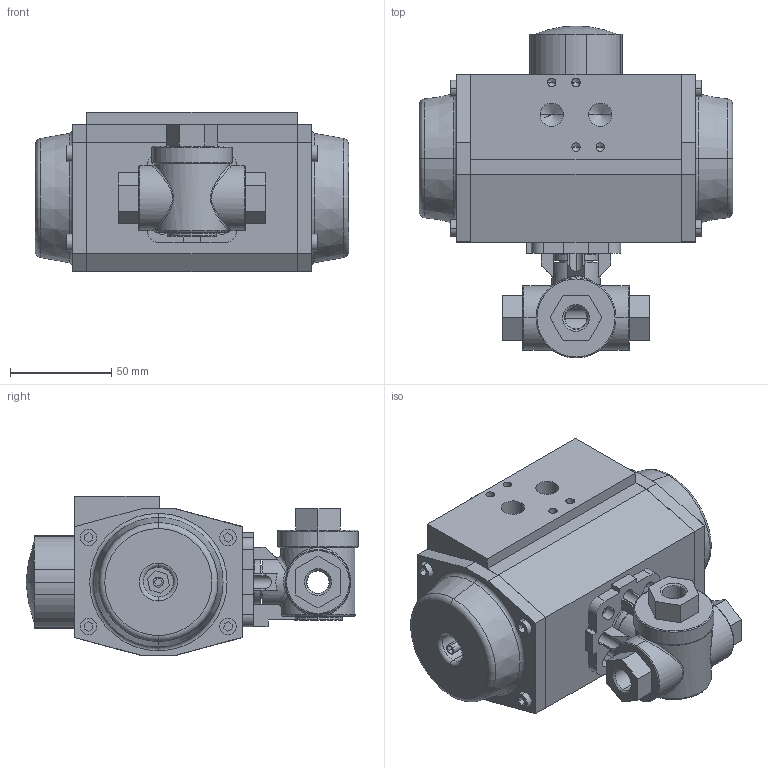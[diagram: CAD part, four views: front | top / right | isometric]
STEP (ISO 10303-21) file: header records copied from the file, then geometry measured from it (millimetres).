
FILE_DESCRIPTION (( 'STEP AP214' ), '1' );
FILE_NAME ('S57D DN8 G1_4 FB + AP2S L.STEP', '2020-05-04T08:28:32', ( '' ), ( '' ), 'SwSTEP 2.0', 'SolidWorks 2018', '' );
FILE_SCHEMA (( 'AUTOMOTIVE_DESIGN' ));
Length unit declared in the file: millimetre
Products named in the file (3): S57D DN8 G1_4 FB + AP2S L; AP2 L_Default<As Machined>; S57D DN08-G1_4 FB
Assembly tree (2 placements, depth 2):
  S57D DN8 G1_4 FB + AP2S L
    S57D DN08-G1_4 FB
    AP2 L_Default<As Machined>
Bounding box: 155 x 164.29 x 79 mm (x, y, z)
Volume: 931736.1 mm3; surface area: 96996.7 mm2
Topology: 9 solids, 9 shells, 465 faces, 1168 edges, 733 vertices
Faces by surface type: plane 250, cylinder 120, cone 44, torus 28, bspline 21, sphere 2
Entity records: 16543 total; most frequent: CARTESIAN_POINT 4252, DIRECTION 2307, ORIENTED_EDGE 2280, EDGE_CURVE 1140, AXIS2_PLACEMENT_3D 782, VECTOR 743, LINE 743, VERTEX_POINT 733
